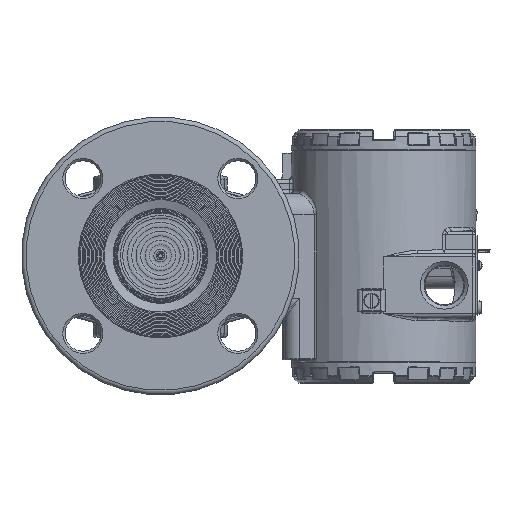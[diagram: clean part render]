
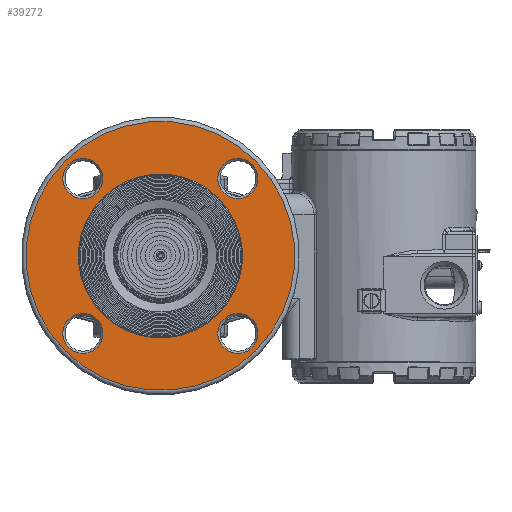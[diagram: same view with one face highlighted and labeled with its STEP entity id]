
A CAD part, top view. The second image highlights one B-rep face of the part: STEP entity #39272.
In plain terms, the highlighted planar face has unit normal (0, 0, 1).
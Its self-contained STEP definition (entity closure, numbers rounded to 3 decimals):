
#769=FACE_BOUND('',#6697,.T.);
#770=FACE_BOUND('',#6698,.T.);
#771=FACE_BOUND('',#6699,.T.);
#772=FACE_BOUND('',#6700,.T.);
#773=FACE_BOUND('',#6701,.T.);
#2786=PLANE('',#43694);
#4023=FACE_OUTER_BOUND('',#6696,.T.);
#6696=EDGE_LOOP('',(#30092));
#6697=EDGE_LOOP('',(#30093));
#6698=EDGE_LOOP('',(#30094));
#6699=EDGE_LOOP('',(#30095));
#6700=EDGE_LOOP('',(#30096));
#6701=EDGE_LOOP('',(#30097,#30098));
#12595=CIRCLE('',#43689,36.9);
#12599=CIRCLE('',#43693,36.9);
#12600=CIRCLE('',#43695,60.5);
#12601=CIRCLE('',#43696,9.);
#12602=CIRCLE('',#43697,9.);
#12603=CIRCLE('',#43698,9.);
#12604=CIRCLE('',#43699,9.);
#17157=VERTEX_POINT('',#70116);
#17158=VERTEX_POINT('',#70117);
#17161=VERTEX_POINT('',#70126);
#17162=VERTEX_POINT('',#70128);
#17163=VERTEX_POINT('',#70130);
#17164=VERTEX_POINT('',#70132);
#17165=VERTEX_POINT('',#70134);
#21709=EDGE_CURVE('',#17157,#17158,#12595,.T.);
#21713=EDGE_CURVE('',#17158,#17157,#12599,.T.);
#21714=EDGE_CURVE('',#17161,#17161,#12600,.T.);
#21715=EDGE_CURVE('',#17162,#17162,#12601,.T.);
#21716=EDGE_CURVE('',#17163,#17163,#12602,.T.);
#21717=EDGE_CURVE('',#17164,#17164,#12603,.T.);
#21718=EDGE_CURVE('',#17165,#17165,#12604,.T.);
#30092=ORIENTED_EDGE('',*,*,#21714,.F.);
#30093=ORIENTED_EDGE('',*,*,#21715,.F.);
#30094=ORIENTED_EDGE('',*,*,#21716,.F.);
#30095=ORIENTED_EDGE('',*,*,#21717,.F.);
#30096=ORIENTED_EDGE('',*,*,#21718,.F.);
#30097=ORIENTED_EDGE('',*,*,#21709,.F.);
#30098=ORIENTED_EDGE('',*,*,#21713,.F.);
#39272=ADVANCED_FACE('',(#4023,#769,#770,#771,#772,#773),#2786,.T.);
#43689=AXIS2_PLACEMENT_3D('',#70118,#51806,#51807);
#43693=AXIS2_PLACEMENT_3D('',#70124,#51814,#51815);
#43694=AXIS2_PLACEMENT_3D('',#70125,#51816,#51817);
#43695=AXIS2_PLACEMENT_3D('',#70127,#51818,#51819);
#43696=AXIS2_PLACEMENT_3D('',#70129,#51820,#51821);
#43697=AXIS2_PLACEMENT_3D('',#70131,#51822,#51823);
#43698=AXIS2_PLACEMENT_3D('',#70133,#51824,#51825);
#43699=AXIS2_PLACEMENT_3D('',#70135,#51826,#51827);
#51806=DIRECTION('center_axis',(0.,0.,1.));
#51807=DIRECTION('ref_axis',(-1.,0.,0.));
#51814=DIRECTION('center_axis',(0.,0.,1.));
#51815=DIRECTION('ref_axis',(-1.,0.,0.));
#51816=DIRECTION('center_axis',(0.,0.,1.));
#51817=DIRECTION('ref_axis',(1.,0.,0.));
#51818=DIRECTION('center_axis',(0.,0.,-1.));
#51819=DIRECTION('ref_axis',(-1.,0.,0.));
#51820=DIRECTION('center_axis',(0.,0.,1.));
#51821=DIRECTION('ref_axis',(-1.,0.,0.));
#51822=DIRECTION('center_axis',(0.,0.,1.));
#51823=DIRECTION('ref_axis',(0.,1.,0.));
#51824=DIRECTION('center_axis',(0.,0.,1.));
#51825=DIRECTION('ref_axis',(1.,0.,0.));
#51826=DIRECTION('center_axis',(0.,0.,1.));
#51827=DIRECTION('ref_axis',(0.,-1.,0.));
#70116=CARTESIAN_POINT('',(36.9,0.,19.));
#70117=CARTESIAN_POINT('',(-36.9,0.,19.));
#70118=CARTESIAN_POINT('Origin',(0.,0.,19.));
#70124=CARTESIAN_POINT('Origin',(0.,0.,19.));
#70125=CARTESIAN_POINT('Origin',(0.,0.,19.));
#70126=CARTESIAN_POINT('',(60.5,0.,19.));
#70127=CARTESIAN_POINT('Origin',(0.,0.,19.));
#70128=CARTESIAN_POINT('',(9.,49.3,19.));
#70129=CARTESIAN_POINT('Origin',(0.,49.3,19.));
#70130=CARTESIAN_POINT('',(49.3,-9.,19.));
#70131=CARTESIAN_POINT('Origin',(49.3,0.,19.));
#70132=CARTESIAN_POINT('',(-9.,-49.3,19.));
#70133=CARTESIAN_POINT('Origin',(0.,-49.3,19.));
#70134=CARTESIAN_POINT('',(-49.3,9.,19.));
#70135=CARTESIAN_POINT('Origin',(-49.3,0.,19.));
